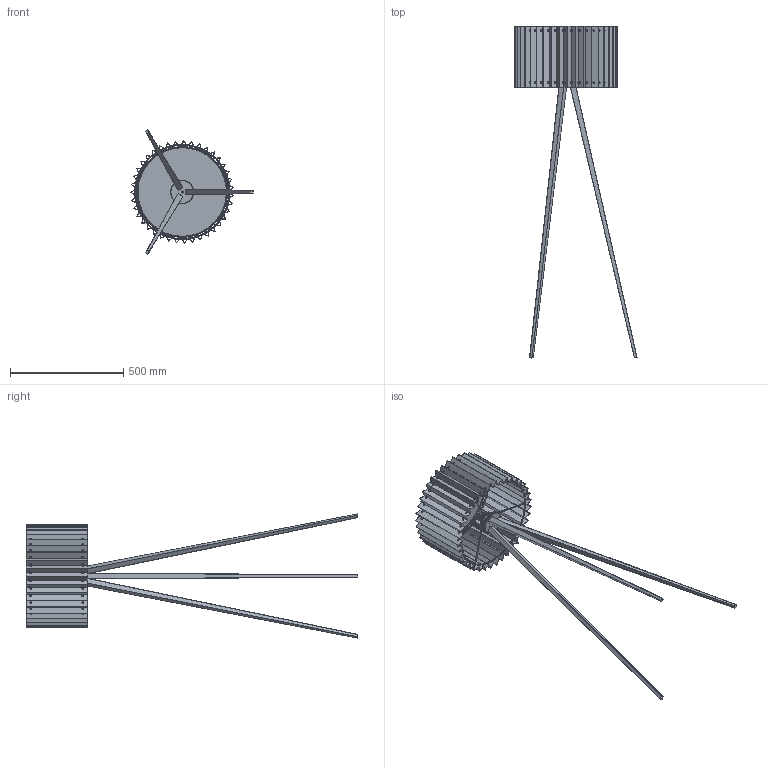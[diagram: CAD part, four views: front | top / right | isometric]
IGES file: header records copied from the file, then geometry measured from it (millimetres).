
Start section: SolidWorks IGES file using analytic representation for surfaces
Global section: file name: C:\Users\Agustin\Desktop\ANGELA\2025\DIRO_PP1185\DIRA_P1185.IGS; native system: SolidWorks 2023; preprocessor: SolidWorks 2023; author: Agustin; date: 260112.123625; units: millimetre
Bounding box: 540.27 x 1466.75 x 548.97 mm (x, y, z)
Surface area: 2146197.3 mm2 (no closed solid volume)
Topology: 0 solids, 0 shells, 1013 faces, 20382 edges, 20382 vertices
Faces by surface type: revolution 544, bspline 469
